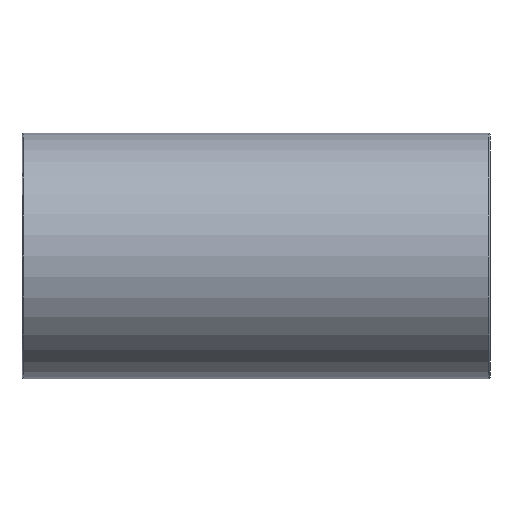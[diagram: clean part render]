
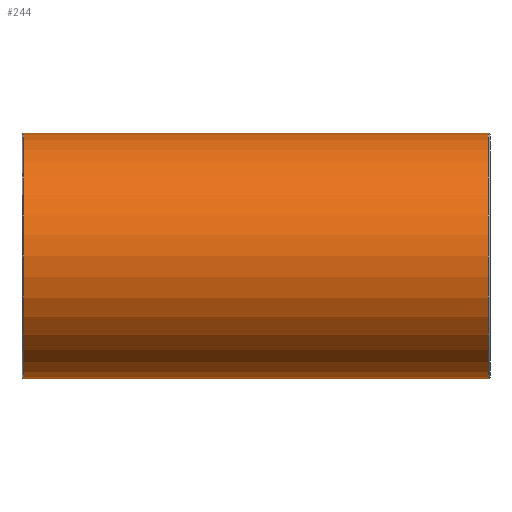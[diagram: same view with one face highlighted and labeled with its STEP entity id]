
A CAD part, front view. The second image highlights one B-rep face of the part: STEP entity #244.
In plain terms, the highlighted cylindrical face has radius 31 mm (diameter 62 mm), a full revolution.
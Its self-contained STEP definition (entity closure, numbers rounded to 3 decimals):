
#28=ELLIPSE('',#270,43.841,31.);
#29=ELLIPSE('',#271,43.841,31.);
#32=FACE_BOUND('',#77,.T.);
#33=FACE_BOUND('',#78,.T.);
#55=FACE_OUTER_BOUND('',#76,.T.);
#76=EDGE_LOOP('',(#188));
#77=EDGE_LOOP('',(#189));
#78=EDGE_LOOP('',(#190,#191));
#120=CIRCLE('',#268,31.);
#121=CIRCLE('',#269,31.);
#140=VERTEX_POINT('',#406);
#141=VERTEX_POINT('',#408);
#142=VERTEX_POINT('',#410);
#143=VERTEX_POINT('',#411);
#164=EDGE_CURVE('',#140,#140,#120,.T.);
#165=EDGE_CURVE('',#141,#141,#121,.T.);
#166=EDGE_CURVE('',#142,#143,#28,.T.);
#167=EDGE_CURVE('',#143,#142,#29,.T.);
#188=ORIENTED_EDGE('',*,*,#164,.F.);
#189=ORIENTED_EDGE('',*,*,#165,.F.);
#190=ORIENTED_EDGE('',*,*,#166,.F.);
#191=ORIENTED_EDGE('',*,*,#167,.F.);
#236=CYLINDRICAL_SURFACE('',#267,31.);
#244=ADVANCED_FACE('',(#55,#32,#33),#236,.T.);
#267=AXIS2_PLACEMENT_3D('',#405,#314,#315);
#268=AXIS2_PLACEMENT_3D('',#407,#316,#317);
#269=AXIS2_PLACEMENT_3D('',#409,#318,#319);
#270=AXIS2_PLACEMENT_3D('',#412,#320,#321);
#271=AXIS2_PLACEMENT_3D('',#413,#322,#323);
#314=DIRECTION('center_axis',(1.,0.,0.));
#315=DIRECTION('ref_axis',(0.,1.,0.));
#316=DIRECTION('center_axis',(-1.,0.,0.));
#317=DIRECTION('ref_axis',(0.,-1.,0.));
#318=DIRECTION('center_axis',(1.,0.,0.));
#319=DIRECTION('ref_axis',(0.,-1.,0.));
#320=DIRECTION('center_axis',(-0.707,0.707,0.));
#321=DIRECTION('ref_axis',(0.707,0.707,0.));
#322=DIRECTION('center_axis',(0.707,0.707,0.));
#323=DIRECTION('ref_axis',(-0.707,0.707,0.));
#405=CARTESIAN_POINT('Origin',(0.,0.,
0.));
#406=CARTESIAN_POINT('',(-58.552,31.,0.));
#407=CARTESIAN_POINT('Origin',(-58.552,0.,0.));
#408=CARTESIAN_POINT('',(58.552,31.,0.));
#409=CARTESIAN_POINT('Origin',(58.552,0.,0.));
#410=CARTESIAN_POINT('',(0.,0.,31.));
#411=CARTESIAN_POINT('',(0.,0.,-31.));
#412=CARTESIAN_POINT('Origin',(0.,0.,0.));
#413=CARTESIAN_POINT('Origin',(0.,0.,0.));
